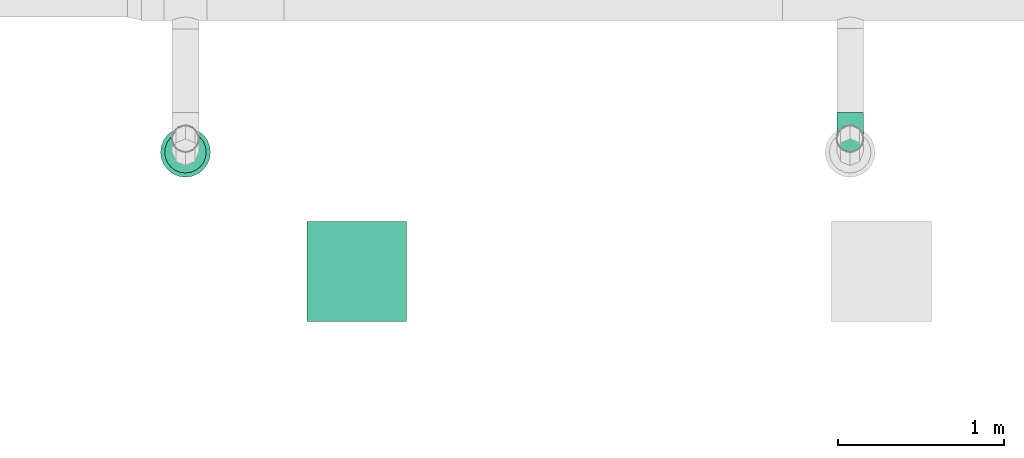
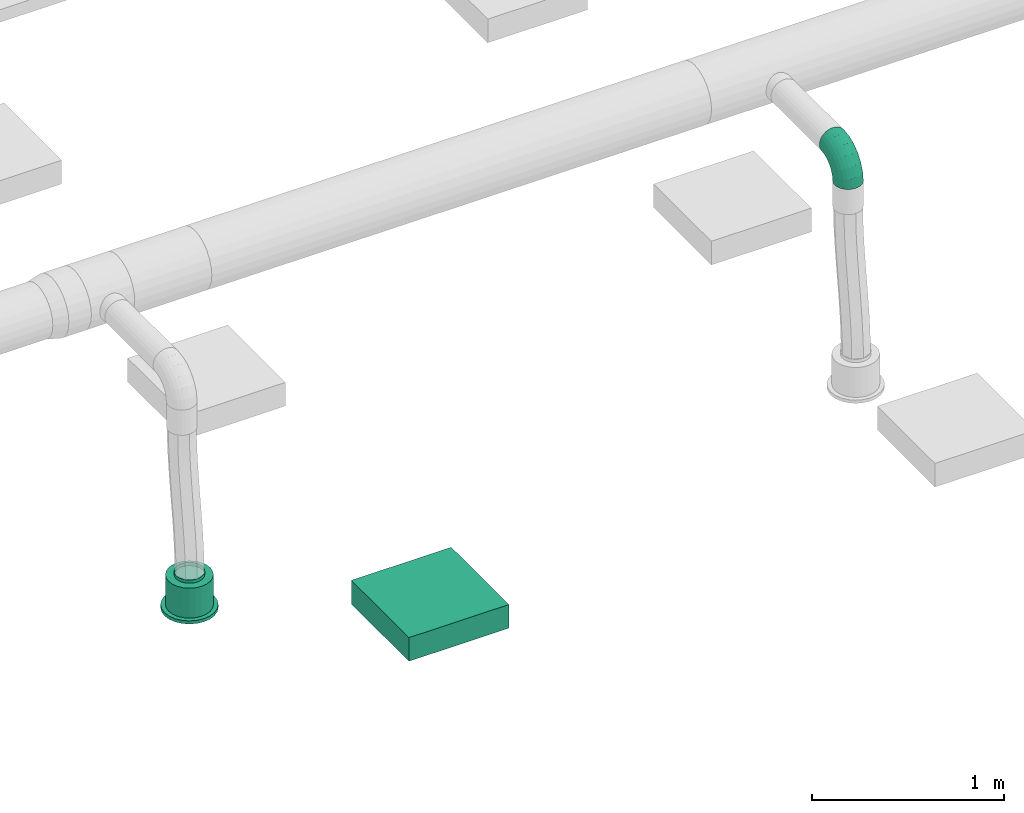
# One storey, part 25 of 374: 1 distribution element, 1 flow fitting, 1 flow terminal.
"""IFC2X3 building model written with IfcOpenShell, lengths in metres."""

import ifcopenshell
import ifcopenshell.guid

model = None  # the IFC model being written
_history = None  # IfcOwnerHistory: only IFC2X3 demands one
_inside = {}  # id of a spatial element -> (the spatial element, [elements in it])
_under = {}  # id of a project, library or spatial element -> (it, [spatial elements below it])
_declared = {}  # id of a project -> (the project, [libraries it declares])
_typed = {}  # id of a type object -> (the type object, [elements of that type])
_made_of = {}  # id of a material, layer set ... -> (it, [elements and type objects made of it])


def new_model(schema):
    """Start an empty IFC model of exactly this schema.

    Asked for "IFC4X3", IfcOpenShell would pick the latest addendum, in which some entities
    have other attributes; the version numbers below select the first issue.
    IFC2X3 requires an IfcOwnerHistory on every rooted entity: one is made here for all.
    """
    global model, _history
    if schema == "IFC4X3":
        model = ifcopenshell.file(schema_version=(4, 3, 0, 0))
    else:
        model = ifcopenshell.file(schema=schema)
    _inside.clear()
    _under.clear()
    _declared.clear()
    _typed.clear()
    _made_of.clear()
    _history = None
    if model.schema == "IFC2X3":
        org = make("IfcOrganization", Name="unknown")
        user = make(
            "IfcPersonAndOrganization",
            ThePerson=make("IfcPerson", FamilyName="unknown"),
            TheOrganization=org,
        )
        app = make(
            "IfcApplication",
            ApplicationDeveloper=org,
            Version="unknown",
            ApplicationFullName="unknown",
            ApplicationIdentifier="unknown",
        )
        _history = make(
            "IfcOwnerHistory",
            OwningUser=user,
            OwningApplication=app,
            ChangeAction="ADDED",
            CreationDate=0,
        )
    return model


def make(cls, **values):
    """One entity of the class cls with the attributes given. An attribute that is None is left unset."""
    return model.create_entity(
        cls, **{name: value for name, value in values.items() if value is not None}
    )


def rooted(cls, **values):
    """An entity with a GlobalId (a new one), such as an element, a storey or a relation."""
    return make(cls, GlobalId=ifcopenshell.guid.new(), OwnerHistory=_history, **values)


def si_unit(unit_type, name, prefix=None):
    """IfcSIUnit, for example si_unit("LENGTHUNIT", "METRE", prefix="MILLI")."""
    return make("IfcSIUnit", UnitType=unit_type, Prefix=prefix, Name=name)


def assignment(units):
    """IfcUnitAssignment: the units of a project."""
    return None if units is None else make("IfcUnitAssignment", Units=units)


def point(xyz):
    """IfcCartesianPoint."""
    return None if xyz is None else make("IfcCartesianPoint", Coordinates=xyz)


def direction(xyz):
    """IfcDirection."""
    return None if xyz is None else make("IfcDirection", DirectionRatios=xyz)


def frame(location, z_axis=None, x_axis=None):
    """IfcAxis2Placement3D, a coordinate frame: its origin and axes. An axis left out is left unset."""
    return make(
        "IfcAxis2Placement3D",
        Location=point(location),
        Axis=direction(z_axis),
        RefDirection=direction(x_axis),
    )


def frame_2d(location, x_axis=None):
    """IfcAxis2Placement2D, a coordinate frame in the plane: its origin and x axis."""
    return make(
        "IfcAxis2Placement2D", Location=point(location), RefDirection=direction(x_axis)
    )


def origin():
    """The frame at (0, 0, 0) with its axes left unset."""
    return frame((0.0, 0.0, 0.0))


def place(relative_to, where):
    """IfcLocalPlacement: puts the frame where relative to a parent placement (None: the world)."""
    return make(
        "IfcLocalPlacement", PlacementRelTo=relative_to, RelativePlacement=where
    )


def context(
    kind, dimensions, precision=None, world=None, true_north=None, identifier=None
):
    """IfcGeometricRepresentationContext, for example the 3D "Model" context."""
    return make(
        "IfcGeometricRepresentationContext",
        ContextIdentifier=identifier,
        ContextType=kind,
        CoordinateSpaceDimension=dimensions,
        Precision=precision,
        WorldCoordinateSystem=world,
        TrueNorth=true_north,
    )


def subcontext(parent, identifier, kind, view, scale=None):
    """IfcGeometricRepresentationSubContext, for example "Body" below "Model"."""
    return make(
        "IfcGeometricRepresentationSubContext",
        ContextIdentifier=identifier,
        ContextType=kind,
        ParentContext=parent,
        TargetScale=scale,
        TargetView=view,
    )


def project(units=None, contexts=None):
    """IfcProject with its units and contexts."""
    return rooted(
        "IfcProject",
        Name="project",
        RepresentationContexts=contexts,
        UnitsInContext=assignment(units),
    )


def spatial(cls, under=None, at=None, **own):
    """A site, building, storey or space (cls), placed at a placement, below another one or the project."""
    s = rooted(cls, ObjectPlacement=at, **own)
    if under is not None:
        _under.setdefault(under.id(), (under, []))[1].append(s)
    return s


def profile(cls, at=None, kind="AREA", **sizes):
    """A parametric profile (cls). Its sizes go by their IFC names, for example OverallWidth=200.0."""
    return make(cls, ProfileType=kind, Position=at, **sizes)


def rectangle(**sizes):
    """IfcRectangleProfileDef."""
    return profile("IfcRectangleProfileDef", **sizes)


def extrude(swept, where, along, depth):
    """IfcExtrudedAreaSolid: the profile swept, set in the frame where, extruded along a direction by depth."""
    return make(
        "IfcExtrudedAreaSolid",
        SweptArea=swept,
        Position=where,
        ExtrudedDirection=direction(along),
        Depth=depth,
    )


def faces_of(points, faces, orient=None, outer=None):
    """IfcFace entities. A face is a list of loops; a loop is a list of indices into points, from 0.

    orient and outer hold one flag for each loop. By default every Orientation is true, the
    first loop of a face is its IfcFaceOuterBound and the others are IfcFaceBound.
    """
    made = []
    for i, loops in enumerate(faces):
        bounds = []
        for j, loop in enumerate(loops):
            is_outer = j == 0 if outer is None else outer[i][j]
            bounds.append(
                make(
                    "IfcFaceOuterBound" if is_outer else "IfcFaceBound",
                    Bound=make("IfcPolyLoop", Polygon=[points[k] for k in loop]),
                    Orientation=True if orient is None else orient[i][j],
                )
            )
        made.append(make("IfcFace", Bounds=bounds))
    return made


def open_shell(faces, orient=None, outer=None):
    """The faces of one IfcOpenShell. surface_model builds it on its shared points."""
    return ("IfcOpenShell", faces, orient, outer)


def surface_model(cls, points, shells):
    """IfcFaceBasedSurfaceModel or IfcShellBasedSurfaceModel (cls): surfaces that need not close."""
    shared = [point(p) for p in points]
    made = [make(c, CfsFaces=faces_of(shared, fs, o, b)) for c, fs, o, b in shells]
    if cls == "IfcFaceBasedSurfaceModel":
        return make(cls, FbsmFaces=made)
    return make(cls, SbsmBoundary=made)


def shape(context_of_items, identifier, shape_type, items):
    """IfcShapeRepresentation: the items that make up one representation, for example the "Body"."""
    return make(
        "IfcShapeRepresentation",
        ContextOfItems=context_of_items,
        RepresentationIdentifier=identifier,
        RepresentationType=shape_type,
        Items=items,
    )


def source(mapping_origin, context_of_items, identifier, shape_type, items):
    """IfcRepresentationMap: a shape defined once, which mapped items show again and again."""
    return make(
        "IfcRepresentationMap",
        MappingOrigin=mapping_origin,
        MappedRepresentation=shape(context_of_items, identifier, shape_type, items),
    )


def transform(
    local_origin,
    x_axis=None,
    y_axis=None,
    z_axis=None,
    scale=None,
    scale2=None,
    scale3=None,
    uniform=True,
):
    """IfcCartesianTransformationOperator3D, or its non-uniform kind. x_axis, y_axis, z_axis: its Axis1, 2, 3."""
    if uniform:
        return make(
            "IfcCartesianTransformationOperator3D",
            Axis1=direction(x_axis),
            Axis2=direction(y_axis),
            LocalOrigin=point(local_origin),
            Scale=scale,
            Axis3=direction(z_axis),
        )
    return make(
        "IfcCartesianTransformationOperator3DnonUniform",
        Axis1=direction(x_axis),
        Axis2=direction(y_axis),
        LocalOrigin=point(local_origin),
        Scale=scale,
        Axis3=direction(z_axis),
        Scale2=scale2,
        Scale3=scale3,
    )


def mapped(mapping_source, mapping_target):
    """IfcMappedItem: shows the shape of a source again, moved by a transform."""
    return make(
        "IfcMappedItem", MappingSource=mapping_source, MappingTarget=mapping_target
    )


def made_of(thing, what):
    """Note that an element or type object is made of a material, layer set ...; save() writes the relation."""
    if what is not None:
        _made_of.setdefault(what.id(), (what, []))[1].append(thing)
    return thing


def element(
    cls,
    number,
    at=None,
    inside=None,
    cuts=None,
    type_object=None,
    material=None,
    context=None,
    identifier="Body",
    shape_type=None,
    held_by="IfcProductDefinitionShape",
    body=None,
    shapes=None,
    **own,
):
    """One element of the class cls, such as IfcWall. Its Tag is "e" and its number.

    at: its placement. inside: the storey or other place that contains it. cuts: it is an
    opening in that element (IfcRelVoidsElement). A single representation is given by context,
    identifier, shape_type and body (its items); several are given by shapes. held_by: the class
    of the entity that holds the representations. save() writes the other relations.
    """
    e = rooted(cls, Tag="e%d" % number, ObjectPlacement=at, **own)
    if body is not None:
        shapes = [shape(context, identifier, shape_type, body)]
    if shapes is not None:
        e.Representation = make(held_by, Representations=shapes)
    if inside is not None:
        _inside.setdefault(inside.id(), (inside, []))[1].append(e)
    if cuts is not None:
        rooted(
            "IfcRelVoidsElement", RelatingBuildingElement=cuts, RelatedOpeningElement=e
        )
    if type_object is not None:
        _typed.setdefault(type_object.id(), (type_object, []))[1].append(e)
    return made_of(e, material)


def aggregate(whole, parts):
    """IfcRelAggregates: a whole, such as a stair, and the parts it consists of."""
    return rooted("IfcRelAggregates", RelatingObject=whole, RelatedObjects=parts)


def save(model, path):
    """Write the relations noted so far, then the file.

    IfcRelAggregates (storeys below a building ...), IfcRelContainedInSpatialStructure (elements
    in a storey), IfcRelDefinesByType, IfcRelAssociatesMaterial and IfcRelDeclares: one each for
    every whole, place, type object, material and project.
    """
    for whole, parts in _under.values():
        aggregate(whole, parts)
    for where, things in _inside.values():
        rooted(
            "IfcRelContainedInSpatialStructure",
            RelatedElements=things,
            RelatingStructure=where,
        )
    for kind, things in _typed.values():
        rooted("IfcRelDefinesByType", RelatedObjects=things, RelatingType=kind)
    for what, things in _made_of.values():
        rooted("IfcRelAssociatesMaterial", RelatedObjects=things, RelatingMaterial=what)
    for by, libraries in _declared.values():
        rooted("IfcRelDeclares", RelatingContext=by, RelatedDefinitions=libraries)
    model.write(path)


model = new_model("IFC2X3")

# Units and contexts
model_context = context("Model", 3, precision=1e-05, world=origin(), true_north=direction((-0.4480736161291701, 0.8939966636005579)))
body_context = subcontext(model_context, "Body", "Model", "MODEL_VIEW")
ifc_project = project(units=[si_unit("LENGTHUNIT", "METRE"), si_unit("AREAUNIT", "SQUARE_METRE"), si_unit("VOLUMEUNIT", "CUBIC_METRE"), si_unit("PLANEANGLEUNIT", "RADIAN"), si_unit("THERMODYNAMICTEMPERATUREUNIT", "KELVIN"), si_unit("MASSUNIT", "GRAM", prefix="KILO"), si_unit("TIMEUNIT", "SECOND")], contexts=[model_context])

# Site, building, storey
site_placement = place(None, origin())
site = spatial("IfcSite", under=ifc_project, at=site_placement, Name="Site 1", CompositionType="ELEMENT")
building_placement = place(site_placement, origin())
building = spatial("IfcBuilding", under=site, at=building_placement, Name="Undefined", CompositionType="ELEMENT")
storey_placement = place(building_placement, origin())
storey = spatial("IfcBuildingStorey", under=building, at=storey_placement, Name="Rez de chauss\x8ee", CompositionType="ELEMENT", Elevation=0.0)

# Flow terminal
shared_shape_1 = source(origin(), body_context, "Body", "SurfaceModel", [
    surface_model("IfcFaceBasedSurfaceModel", [(0.0, 0.0, 0.0), (0.03915785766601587, 0.0, 0.0), (0.03915785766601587, 0.020000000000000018, 0.0), (3.552713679e-15, 0.020000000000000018, 0.0), (0.07698144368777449, 0.0, -0.010134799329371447), (0.07698144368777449, 0.020000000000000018, -0.010134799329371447), (0.11089314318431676, 0.0, -0.02971372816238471), (0.11089314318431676, 0.020000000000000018, -0.02971372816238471), (0.13858192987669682, 0.0, -0.05740251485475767), (0.13858192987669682, 0.020000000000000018, -0.05740251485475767), (0.15816085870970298, 0.0, -0.09131421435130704), (0.15816085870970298, 0.020000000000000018, -0.09131421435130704), (0.16829565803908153, 0.0, -0.12913780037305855), (0.16829565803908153, 0.020000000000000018, -0.12913780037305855), (0.16829565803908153, 0.0, -0.16829565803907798), (0.16829565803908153, 0.020000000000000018, -0.16829565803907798), (0.15816085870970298, 0.0, -0.20611924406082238), (0.15816085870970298, 0.020000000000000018, -0.20611924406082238), (0.13858192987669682, 0.0, -0.24003094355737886), (0.13858192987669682, 0.020000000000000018, -0.24003094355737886), (0.11089314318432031, 0.0, -0.2677197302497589), (0.11089314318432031, 0.020000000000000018, -0.2677197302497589), (0.07698144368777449, 0.0, -0.2872986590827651), (0.07698144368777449, 0.020000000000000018, -0.2872986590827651), (0.039157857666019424, 0.0, -0.29743345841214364), (0.039157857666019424, 0.020000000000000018, -0.29743345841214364), (3.552713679e-15, 0.0, -0.29743345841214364), (3.552713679e-15, 0.020000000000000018, -0.29743345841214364), (-0.03782358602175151, 0.0, -0.2872986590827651), (-0.03782358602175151, 0.020000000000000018, -0.2872986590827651), (-0.07173528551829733, 0.0, -0.2677197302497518), (-0.07173528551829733, 0.020000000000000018, -0.2677197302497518), (-0.0994240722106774, 0.0, -0.24003094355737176), (-0.0994240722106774, 0.020000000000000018, -0.24003094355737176), (-0.11900300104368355, 0.0, -0.2061192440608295), (-0.11900300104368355, 0.020000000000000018, -0.2061192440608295), (-0.1291378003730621, 0.0, -0.16829565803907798), (-0.1291378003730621, 0.020000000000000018, -0.16829565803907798), (-0.1291378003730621, 0.0, -0.12913780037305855), (-0.1291378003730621, 0.020000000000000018, -0.12913780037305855), (-0.11900300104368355, 0.0, -0.09131421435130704), (-0.11900300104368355, 0.020000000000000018, -0.09131421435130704), (-0.0994240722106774, 0.0, -0.05740251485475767), (-0.0994240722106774, 0.020000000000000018, -0.05740251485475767), (-0.07173528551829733, 0.0, -0.029713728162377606), (-0.07173528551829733, 0.020000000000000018, -0.029713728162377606), (-0.03782358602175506, 0.0, -0.010134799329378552), (-0.03782358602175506, 0.020000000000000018, -0.010134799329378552), (0.019578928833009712, 0.0, -0.14871672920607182), (0.019578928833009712, 0.020000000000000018, -0.14871672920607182), (0.003263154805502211, 0.020000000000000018, -0.02478612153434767), (0.035894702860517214, 0.020000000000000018, -0.02478612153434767), (0.035894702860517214, 0.20999999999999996, -0.02478612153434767), (0.003263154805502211, 0.20999999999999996, -0.02478612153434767), (0.06741435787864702, 0.020000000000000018, -0.033231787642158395), (0.06741435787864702, 0.20999999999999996, -0.033231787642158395), (0.0956741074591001, 0.020000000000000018, -0.04954756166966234), (0.0956741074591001, 0.20999999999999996, -0.04954756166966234), (0.11874809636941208, 0.020000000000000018, -0.07262155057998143), (0.11874809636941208, 0.20999999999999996, -0.07262155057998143), (0.13506387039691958, 0.020000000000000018, -0.10088130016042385), (0.13506387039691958, 0.20999999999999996, -0.10088130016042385), (0.1435095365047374, 0.020000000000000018, -0.13240095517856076), (0.1435095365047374, 0.20999999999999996, -0.13240095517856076), (0.1435095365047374, 0.020000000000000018, -0.16503250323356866), (0.1435095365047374, 0.20999999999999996, -0.16503250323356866), (0.13506387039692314, 0.020000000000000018, -0.19655215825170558), (0.13506387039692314, 0.20999999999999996, -0.19655215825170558), (0.11874809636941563, 0.020000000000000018, -0.2248119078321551), (0.11874809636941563, 0.20999999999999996, -0.2248119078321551), (0.09567410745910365, 0.020000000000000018, -0.24788589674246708), (0.09567410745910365, 0.20999999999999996, -0.24788589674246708), (0.06741435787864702, 0.020000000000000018, -0.26420167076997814), (0.06741435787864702, 0.20999999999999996, -0.26420167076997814), (0.035894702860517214, 0.020000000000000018, -0.27264733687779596), (0.035894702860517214, 0.20999999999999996, -0.27264733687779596), (0.0032631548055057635, 0.020000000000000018, -0.27264733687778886), (0.0032631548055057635, 0.20999999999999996, -0.27264733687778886), (-0.028256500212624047, 0.020000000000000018, -0.26420167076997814), (-0.028256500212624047, 0.20999999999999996, -0.26420167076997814), (-0.05651624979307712, 0.020000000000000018, -0.2478858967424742), (-0.05651624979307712, 0.20999999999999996, -0.2478858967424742), (-0.07959023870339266, 0.020000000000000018, -0.2248119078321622), (-0.07959023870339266, 0.20999999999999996, -0.2248119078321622), (-0.09590601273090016, 0.020000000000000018, -0.19655215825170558), (-0.09590601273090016, 0.20999999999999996, -0.19655215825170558), (-0.10435167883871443, 0.020000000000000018, -0.16503250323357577), (-0.10435167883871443, 0.20999999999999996, -0.16503250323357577), (-0.10435167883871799, 0.020000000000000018, -0.13240095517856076), (-0.10435167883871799, 0.20999999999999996, -0.13240095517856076), (-0.09590601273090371, 0.020000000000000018, -0.10088130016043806), (-0.09590601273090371, 0.20999999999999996, -0.10088130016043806), (-0.07959023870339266, 0.020000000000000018, -0.07262155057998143), (-0.07959023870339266, 0.20999999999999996, -0.07262155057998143), (-0.056516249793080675, 0.020000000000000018, -0.04954756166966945), (-0.056516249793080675, 0.20999999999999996, -0.04954756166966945), (-0.028256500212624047, 0.020000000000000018, -0.033231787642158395), (-0.028256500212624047, 0.20999999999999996, -0.033231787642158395), (0.019578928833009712, 0.20999999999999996, -0.14871672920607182), (0.009136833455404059, 0.20999999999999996, -0.06940114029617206), (0.030021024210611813, 0.20999999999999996, -0.06940114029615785), (0.030021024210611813, 0.22999999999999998, -0.06940114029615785), (0.009136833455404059, 0.22999999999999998, -0.06940114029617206), (0.05019360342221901, 0.20999999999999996, -0.07480636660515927), (0.05019360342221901, 0.22999999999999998, -0.07480636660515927), (0.06827984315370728, 0.20999999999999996, -0.08524846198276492), (0.06827984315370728, 0.22999999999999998, -0.08524846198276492), (0.0830471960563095, 0.20999999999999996, -0.10001581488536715), (0.0830471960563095, 0.22999999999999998, -0.10001581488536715), (0.0934892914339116, 0.20999999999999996, -0.11810205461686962), (0.0934892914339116, 0.22999999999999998, -0.11810205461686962), (0.09889451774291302, 0.20999999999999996, -0.13827463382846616), (0.09889451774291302, 0.22999999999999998, -0.13827463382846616), (0.09889451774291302, 0.20999999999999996, -0.15915882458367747), (0.09889451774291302, 0.22999999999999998, -0.15915882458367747), (0.09348929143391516, 0.20999999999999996, -0.179331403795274), (0.09348929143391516, 0.22999999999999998, -0.179331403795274), (0.0830471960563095, 0.20999999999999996, -0.19741764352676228), (0.0830471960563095, 0.22999999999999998, -0.19741764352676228), (0.06827984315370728, 0.20999999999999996, -0.2121849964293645), (0.06827984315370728, 0.22999999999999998, -0.2121849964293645), (0.05019360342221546, 0.20999999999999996, -0.22262709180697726), (0.05019360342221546, 0.22999999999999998, -0.22262709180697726), (0.030021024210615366, 0.20999999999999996, -0.22803231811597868), (0.030021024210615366, 0.22999999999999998, -0.22803231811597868), (0.009136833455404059, 0.20999999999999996, -0.22803231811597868), (0.009136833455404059, 0.22999999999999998, -0.22803231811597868), (-0.011035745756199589, 0.20999999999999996, -0.22262709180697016), (-0.011035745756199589, 0.22999999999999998, -0.22262709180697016), (-0.0291219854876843, 0.20999999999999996, -0.2121849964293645), (-0.0291219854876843, 0.22999999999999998, -0.2121849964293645), (-0.043889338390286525, 0.20999999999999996, -0.19741764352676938), (-0.043889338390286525, 0.22999999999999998, -0.19741764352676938), (-0.05433143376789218, 0.20999999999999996, -0.17933140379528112), (-0.05433143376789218, 0.22999999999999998, -0.17933140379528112), (-0.05973666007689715, 0.20999999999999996, -0.15915882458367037), (-0.05973666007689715, 0.22999999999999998, -0.15915882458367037), (-0.0597366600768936, 0.20999999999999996, -0.13827463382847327), (-0.0597366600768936, 0.22999999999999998, -0.13827463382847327), (-0.05433143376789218, 0.20999999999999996, -0.11810205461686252), (-0.05433143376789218, 0.22999999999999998, -0.11810205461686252), (-0.043889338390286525, 0.20999999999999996, -0.10001581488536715), (-0.043889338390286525, 0.22999999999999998, -0.10001581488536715), (-0.02912198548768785, 0.20999999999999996, -0.08524846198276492), (-0.02912198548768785, 0.22999999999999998, -0.08524846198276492), (-0.011035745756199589, 0.20999999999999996, -0.07480636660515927), (-0.011035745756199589, 0.22999999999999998, -0.07480636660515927)], [open_shell([[[0, 1, 2, 3]], [[1, 4, 5, 2]], [[4, 6, 7, 5]], [[6, 8, 9, 7]], [[8, 10, 11, 9]], [[10, 12, 13, 11]], [[12, 14, 15, 13]], [[14, 16, 17, 15]], [[16, 18, 19, 17]], [[18, 20, 21, 19]], [[20, 22, 23, 21]], [[22, 24, 25, 23]], [[24, 26, 27, 25]], [[26, 28, 29, 27]], [[28, 30, 31, 29]], [[30, 32, 33, 31]], [[32, 34, 35, 33]], [[34, 36, 37, 35]], [[36, 38, 39, 37]], [[38, 40, 41, 39]], [[40, 42, 43, 41]], [[42, 44, 45, 43]], [[44, 46, 47, 45]], [[46, 0, 3, 47]], [[48, 1, 0]], [[48, 4, 1]], [[48, 6, 4]], [[48, 8, 6]], [[48, 10, 8]], [[48, 12, 10]], [[48, 14, 12]], [[48, 16, 14]], [[48, 18, 16]], [[48, 20, 18]], [[48, 22, 20]], [[48, 24, 22]], [[48, 26, 24]], [[48, 28, 26]], [[48, 30, 28]], [[48, 32, 30]], [[48, 34, 32]], [[48, 36, 34]], [[48, 38, 36]], [[48, 40, 38]], [[48, 42, 40]], [[48, 44, 42]], [[48, 46, 44]], [[48, 0, 46]], [[49, 47, 3]], [[49, 45, 47]], [[49, 43, 45]], [[49, 41, 43]], [[49, 39, 41]], [[49, 37, 39]], [[49, 35, 37]], [[49, 33, 35]], [[49, 31, 33]], [[49, 29, 31]], [[49, 27, 29]], [[49, 25, 27]], [[49, 23, 25]], [[49, 21, 23]], [[49, 19, 21]], [[49, 17, 19]], [[49, 15, 17]], [[49, 13, 15]], [[49, 11, 13]], [[49, 9, 11]], [[49, 7, 9]], [[49, 5, 7]], [[49, 2, 5]], [[49, 3, 2]], [[50, 51, 52, 53]], [[51, 54, 55, 52]], [[54, 56, 57, 55]], [[56, 58, 59, 57]], [[58, 60, 61, 59]], [[60, 62, 63, 61]], [[62, 64, 65, 63]], [[64, 66, 67, 65]], [[66, 68, 69, 67]], [[68, 70, 71, 69]], [[70, 72, 73, 71]], [[72, 74, 75, 73]], [[74, 76, 77, 75]], [[76, 78, 79, 77]], [[78, 80, 81, 79]], [[80, 82, 83, 81]], [[82, 84, 85, 83]], [[84, 86, 87, 85]], [[86, 88, 89, 87]], [[88, 90, 91, 89]], [[90, 92, 93, 91]], [[92, 94, 95, 93]], [[94, 96, 97, 95]], [[96, 50, 53, 97]], [[49, 51, 50]], [[49, 54, 51]], [[49, 56, 54]], [[49, 58, 56]], [[49, 60, 58]], [[49, 62, 60]], [[49, 64, 62]], [[49, 66, 64]], [[49, 68, 66]], [[49, 70, 68]], [[49, 72, 70]], [[49, 74, 72]], [[49, 76, 74]], [[49, 78, 76]], [[49, 80, 78]], [[49, 82, 80]], [[49, 84, 82]], [[49, 86, 84]], [[49, 88, 86]], [[49, 90, 88]], [[49, 92, 90]], [[49, 94, 92]], [[49, 96, 94]], [[49, 50, 96]], [[98, 97, 53]], [[98, 95, 97]], [[98, 93, 95]], [[98, 91, 93]], [[98, 89, 91]], [[98, 87, 89]], [[98, 85, 87]], [[98, 83, 85]], [[98, 81, 83]], [[98, 79, 81]], [[98, 77, 79]], [[98, 75, 77]], [[98, 73, 75]], [[98, 71, 73]], [[98, 69, 71]], [[98, 67, 69]], [[98, 65, 67]], [[98, 63, 65]], [[98, 61, 63]], [[98, 59, 61]], [[98, 57, 59]], [[98, 55, 57]], [[98, 52, 55]], [[98, 53, 52]], [[99, 100, 101, 102]], [[100, 103, 104, 101]], [[103, 105, 106, 104]], [[105, 107, 108, 106]], [[107, 109, 110, 108]], [[109, 111, 112, 110]], [[111, 113, 114, 112]], [[113, 115, 116, 114]], [[115, 117, 118, 116]], [[117, 119, 120, 118]], [[119, 121, 122, 120]], [[121, 123, 124, 122]], [[123, 125, 126, 124]], [[125, 127, 128, 126]], [[127, 129, 130, 128]], [[129, 131, 132, 130]], [[131, 133, 134, 132]], [[133, 135, 136, 134]], [[135, 137, 138, 136]], [[137, 139, 140, 138]], [[139, 141, 142, 140]], [[141, 143, 144, 142]], [[143, 145, 146, 144]], [[145, 99, 102, 146]]])]),
])
flow_terminal_placement = place(storey_placement, origin())
element("IfcFlowTerminal", 1, at=flow_terminal_placement, inside=storey, Name="Air diffuseur - bouche", ObjectType="Air diffuseur - bouche", context=body_context, shape_type="MappedRepresentation", body=[
    mapped(shared_shape_1, transform((22.290000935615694, 2.0299997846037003, 2.38), x_axis=(-0.9914448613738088, -0.13052619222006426, 0.0), y_axis=(0.0, 0.0, 1.0), z_axis=(-0.13052619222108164, 0.9914448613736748, 0.0))),
])

# Flow fitting
shared_shape_2 = source(origin(), body_context, "Body", "SurfaceModel", [
    surface_model("IfcFaceBasedSurfaceModel", [(0.06265257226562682, -8.8817842e-16, 0.0), (0.062296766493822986, 0.02088115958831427, -7.105427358e-15), (0.0003558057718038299, 0.020881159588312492, 7.105427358e-15), (0.0, 0.0, 0.0), (-0.059474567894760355, 0.022956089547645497, -0.015896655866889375), (-0.06051773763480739, 0.002098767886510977, -0.01607928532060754), (-0.11311701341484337, 0.02696454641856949, -0.04660663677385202), (-0.11477645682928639, 0.006153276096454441, -0.04714207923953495), (-0.15691588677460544, 0.0326333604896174, -0.09003710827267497), (-0.15907851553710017, 0.01188721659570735, -0.09107150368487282), (-0.18788636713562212, 0.03957621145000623, -0.14322835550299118), (-0.1904048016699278, 0.01890983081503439, -0.14487384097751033), (-0.2039178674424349, 0.04731995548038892, -0.20255548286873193), (-0.20662048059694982, 0.026742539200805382, -0.20488255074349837), (0.061253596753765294, 0.04103889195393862, -0.0053597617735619), (0.0013989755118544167, 0.04103889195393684, -0.005359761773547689), (-0.05641614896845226, 0.04304393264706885, -0.02072097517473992), (-0.10825177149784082, 0.04691737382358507, -0.050396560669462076), (-0.15057538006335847, 0.05239524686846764, -0.09236417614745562), (-0.18050269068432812, 0.05910424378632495, -0.14376379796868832), (-0.19599420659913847, 0.06658715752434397, -0.20109262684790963), (0.05959415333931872, 0.05909948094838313, -0.01571402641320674), (0.003058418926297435, 0.05909948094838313, -0.01571402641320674), (-0.05155090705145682, 0.06099334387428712, -0.030223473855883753), (-0.10051228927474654, 0.06465200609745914, -0.058253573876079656), (-0.1404890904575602, 0.0698261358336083, -0.09789412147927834), (-0.16875695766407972, 0.0761631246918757, -0.14644367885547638), (-0.18338948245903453, 0.08323111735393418, -0.2005936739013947), (0.057431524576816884, 0.07383212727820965, -0.030357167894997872), (0.005221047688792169, 0.07383212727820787, -0.03035716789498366), (-0.0452104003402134, 0.07558110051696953, -0.04375657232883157), (-0.09042599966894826, 0.07895985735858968, -0.06964223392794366), (-0.12734438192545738, 0.08373814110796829, -0.10625008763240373), (-0.15344962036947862, 0.08959031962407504, -0.15108536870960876), (-0.16696268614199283, 0.0961175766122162, -0.20109262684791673), (0.054913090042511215, 0.0842328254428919, -0.048291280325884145), (0.007739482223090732, 0.08423282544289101, -0.04829128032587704), (-0.037826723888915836, 0.08581307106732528, -0.06039801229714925), (-0.07868026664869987, 0.08886587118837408, -0.08378642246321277), (-0.11203704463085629, 0.09318318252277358, -0.11686262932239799), (-0.13562384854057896, 0.09847078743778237, -0.1573725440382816), (-0.14783327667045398, 0.10436834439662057, -0.20255548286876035), (0.05221047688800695, 0.0895927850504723, -0.06829418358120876), (0.010442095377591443, 0.08959278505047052, -0.06829418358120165), (-0.029903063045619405, 0.09099196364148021, -0.07901370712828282), (-0.06607554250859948, 0.09369496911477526, -0.0997222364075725), (-0.0956102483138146, 0.0975175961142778, -0.12900851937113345), (-0.11649443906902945, 0.10219933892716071, -0.16487674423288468), (-0.12730489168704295, 0.1074211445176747, -0.2048825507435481), (0.04950786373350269, 0.08954673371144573, -0.08900271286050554), (0.013144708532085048, 0.08954673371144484, -0.08900271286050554), (-0.02197940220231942, 0.09076484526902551, -0.09833502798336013), (-0.05347081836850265, 0.09311805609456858, -0.11636367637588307), (-0.0791834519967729, 0.09644599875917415, -0.14186003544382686), (-0.09736502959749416, 0.10052187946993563, -0.17308657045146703), (-0.10677650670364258, 0.1050679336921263, -0.20791524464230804), (0.04698942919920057, 0.08409780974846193, -0.10900561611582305), (0.015663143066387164, 0.08409780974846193, -0.10900561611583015), (-0.014595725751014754, 0.08514719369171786, -0.11704525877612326), (-0.0417250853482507, 0.0871744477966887, -0.13257665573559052), (-0.06387611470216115, 0.09004141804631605, -0.15454136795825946), (-0.07953925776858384, 0.09355272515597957, -0.1814425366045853), (-0.08764709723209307, 0.09746907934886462, -0.21144689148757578), (0.04482680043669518, 0.0736173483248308, -0.12693972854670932), (0.017825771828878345, 0.0736173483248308, -0.12693972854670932), (-0.008255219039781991, 0.07452184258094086, -0.13386932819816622), (-0.03163879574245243, 0.0762691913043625, -0.14725628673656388), (-0.050731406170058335, 0.07874031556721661, -0.1661883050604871), (-0.06423192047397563, 0.08176681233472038, -0.18937519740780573), (-0.07122030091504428, 0.08514243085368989, -0.21523681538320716), (0.04316735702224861, 0.058819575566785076, -0.14158287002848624), (0.019485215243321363, 0.058819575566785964, -0.14158287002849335), (-0.0033899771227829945, 0.05961289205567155, -0.14766070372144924), (-0.02389931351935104, 0.06114546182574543, -0.15940217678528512), (-0.04064511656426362, 0.06331284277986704, -0.17600712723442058), (-0.052486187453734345, 0.06596733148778, -0.19634395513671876), (-0.05861557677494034, 0.06892802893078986, -0.2190267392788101), (0.04212418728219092, 0.040712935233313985, -0.15193713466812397), (0.020528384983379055, 0.040712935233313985, -0.15193713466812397), (-0.0003315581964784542, 0.041436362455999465, -0.15747952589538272), (-0.019034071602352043, 0.04283391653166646, -0.16818660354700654), (-0.03430460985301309, 0.04481035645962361, -0.1833286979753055), (-0.04510251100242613, 0.047230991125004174, -0.20187390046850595), (-0.05069191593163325, 0.04993085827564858, -0.22255838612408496), (0.04176838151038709, 0.02053136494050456, -0.15729689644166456), (0.020884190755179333, 0.02053136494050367, -0.15729689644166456), (0.0007116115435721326, 0.021230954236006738, -0.16265665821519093), (-0.017374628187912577, 0.022582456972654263, -0.17301092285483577), (-0.03214198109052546, 0.024493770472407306, -0.1876540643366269), (-0.042584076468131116, 0.026834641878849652, -0.20558817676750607), (-0.04798930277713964, 0.02944554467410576, -0.22559108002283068), (0.04212418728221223, -0.000349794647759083, -0.15729689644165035), (0.020528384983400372, -0.000349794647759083, -0.15729689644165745), (-0.0003315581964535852, 0.00037363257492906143, -0.1628392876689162), (-0.019034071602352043, 0.0017711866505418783, -0.17354636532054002), (-0.03430460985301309, 0.0037476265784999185, -0.18868845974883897), (-0.04510251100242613, 0.00616826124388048, -0.20723366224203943), (-0.05069191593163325, 0.008868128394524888, -0.22791814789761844), (0.04316735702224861, -0.020507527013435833, -0.15193713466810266), (0.019485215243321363, -0.020507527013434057, -0.15193713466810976), (-0.0033899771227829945, -0.019714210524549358, -0.15801496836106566), (-0.02389931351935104, -0.01818164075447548, -0.16975644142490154), (-0.04064511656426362, -0.01601425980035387, -0.186361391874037), (-0.052486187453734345, -0.013359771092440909, -0.20669821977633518), (-0.05861557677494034, -0.010399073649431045, -0.22938100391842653), (0.04482680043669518, -0.03856811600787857, -0.1415828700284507), (0.017825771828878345, -0.03856811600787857, -0.1415828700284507), (-0.008255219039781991, -0.03766362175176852, -0.1485124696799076), (-0.03163879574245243, -0.03591627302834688, -0.16189942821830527), (-0.050731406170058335, -0.03344514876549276, -0.1808314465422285), (-0.06423192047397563, -0.030418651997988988, -0.20401833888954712), (-0.07122030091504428, -0.027043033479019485, -0.22987995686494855), (0.04698942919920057, -0.05330076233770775, -0.12693972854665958), (0.015663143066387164, -0.05330076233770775, -0.12693972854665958), (-0.014595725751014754, -0.05225137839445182, -0.1349793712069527), (-0.0417250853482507, -0.05022412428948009, -0.15051076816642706), (-0.06387611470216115, -0.047357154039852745, -0.172475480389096), (-0.07953925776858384, -0.043845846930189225, -0.19937664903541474), (-0.08764709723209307, -0.03992949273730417, -0.2293810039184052), (0.04950786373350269, -0.06370146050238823, -0.10900561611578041), (0.013144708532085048, -0.06370146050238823, -0.10900561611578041), (-0.02197940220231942, -0.06248334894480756, -0.11833793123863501), (-0.05347081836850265, -0.06013013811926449, -0.13636657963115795), (-0.0791834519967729, -0.05680219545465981, -0.16186293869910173), (-0.09736502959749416, -0.05272631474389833, -0.1930894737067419), (-0.10677650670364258, -0.04818026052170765, -0.2279181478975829), (0.05221047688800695, -0.06906142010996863, -0.08900271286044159), (0.010442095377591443, -0.06906142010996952, -0.08900271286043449), (-0.029903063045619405, -0.06766224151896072, -0.09972223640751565), (-0.06607554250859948, -0.06495923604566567, -0.12043076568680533), (-0.0956102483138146, -0.06113660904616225, -0.14971704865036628), (-0.11649443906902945, -0.05645486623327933, -0.1855852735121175), (-0.12730489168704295, -0.05123306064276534, -0.22559108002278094), (0.054913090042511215, -0.06901536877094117, -0.06829418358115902), (0.007739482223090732, -0.06901536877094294, -0.06829418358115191), (-0.037826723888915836, -0.06743512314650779, -0.08040091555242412), (-0.07868026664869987, -0.06438232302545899, -0.10378932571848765), (-0.11203704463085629, -0.06006501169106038, -0.13686553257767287), (-0.13562384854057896, -0.0547774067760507, -0.17737544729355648), (-0.14783327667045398, -0.04887984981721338, -0.22255838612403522), (0.057431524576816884, -0.06356644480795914, -0.0482912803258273), (0.005221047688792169, -0.06356644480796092, -0.04829128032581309), (-0.0452104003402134, -0.061817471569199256, -0.0616906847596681), (-0.09042599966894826, -0.05843871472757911, -0.0875763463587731), (-0.12734438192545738, -0.05366043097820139, -0.12418420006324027), (-0.15344962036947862, -0.04780825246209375, -0.1690194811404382), (-0.16696268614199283, -0.041280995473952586, -0.21902673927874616), (0.05959415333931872, -0.05308598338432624, -0.030357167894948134), (0.003058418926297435, -0.05308598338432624, -0.030357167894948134), (-0.05155090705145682, -0.05119212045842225, -0.04486661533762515), (-0.10051228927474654, -0.04753345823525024, -0.07289671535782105), (-0.1404890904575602, -0.04235932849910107, -0.11253726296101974), (-0.16875695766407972, -0.03602233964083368, -0.16108682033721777), (-0.18338948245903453, -0.02895434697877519, -0.2152368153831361), (0.061253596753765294, -0.03828821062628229, -0.015714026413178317), (0.0013989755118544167, -0.03828821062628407, -0.015714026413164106), (-0.05641614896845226, -0.03628316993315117, -0.031075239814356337), (-0.10825177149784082, -0.03240972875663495, -0.06075082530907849), (-0.15057538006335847, -0.026931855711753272, -0.10271844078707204), (-0.18050269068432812, -0.02022285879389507, -0.15411806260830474), (-0.19599420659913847, -0.012739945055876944, -0.21144689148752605), (0.062296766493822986, -0.020181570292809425, -0.005359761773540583), (0.0003558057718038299, -0.020181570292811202, -0.0053597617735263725), (-0.059474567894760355, -0.018106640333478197, -0.021256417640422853), (-0.11311701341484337, -0.014098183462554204, -0.051966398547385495), (-0.15691588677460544, -0.00842936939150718, -0.09539687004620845), (-0.18788636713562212, -0.0014865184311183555, -0.14858811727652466), (-0.2039178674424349, 0.006257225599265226, -0.2079152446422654)], [open_shell([[[0, 1, 2, 3]], [[3, 2, 4, 5]], [[5, 4, 6, 7]], [[7, 6, 8, 9]], [[9, 8, 10, 11]], [[11, 10, 12, 13]], [[1, 14, 15, 2]], [[2, 15, 16, 4]], [[4, 16, 17, 6]], [[6, 17, 18, 8]], [[8, 18, 19, 10]], [[10, 19, 20, 12]], [[14, 21, 22, 15]], [[15, 22, 23, 16]], [[16, 23, 24, 17]], [[17, 24, 25, 18]], [[18, 25, 26, 19]], [[19, 26, 27, 20]], [[21, 28, 29, 22]], [[22, 29, 30, 23]], [[23, 30, 31, 24]], [[24, 31, 32, 25]], [[25, 32, 33, 26]], [[26, 33, 34, 27]], [[28, 35, 36, 29]], [[29, 36, 37, 30]], [[30, 37, 38, 31]], [[31, 38, 39, 32]], [[32, 39, 40, 33]], [[33, 40, 41, 34]], [[35, 42, 43, 36]], [[36, 43, 44, 37]], [[37, 44, 45, 38]], [[38, 45, 46, 39]], [[39, 46, 47, 40]], [[40, 47, 48, 41]], [[42, 49, 50, 43]], [[43, 50, 51, 44]], [[44, 51, 52, 45]], [[45, 52, 53, 46]], [[46, 53, 54, 47]], [[47, 54, 55, 48]], [[49, 56, 57, 50]], [[50, 57, 58, 51]], [[51, 58, 59, 52]], [[52, 59, 60, 53]], [[53, 60, 61, 54]], [[54, 61, 62, 55]], [[56, 63, 64, 57]], [[57, 64, 65, 58]], [[58, 65, 66, 59]], [[59, 66, 67, 60]], [[60, 67, 68, 61]], [[61, 68, 69, 62]], [[63, 70, 71, 64]], [[64, 71, 72, 65]], [[65, 72, 73, 66]], [[66, 73, 74, 67]], [[67, 74, 75, 68]], [[68, 75, 76, 69]], [[70, 77, 78, 71]], [[71, 78, 79, 72]], [[72, 79, 80, 73]], [[73, 80, 81, 74]], [[74, 81, 82, 75]], [[75, 82, 83, 76]], [[77, 84, 85, 78]], [[78, 85, 86, 79]], [[79, 86, 87, 80]], [[80, 87, 88, 81]], [[81, 88, 89, 82]], [[82, 89, 90, 83]], [[84, 91, 92, 85]], [[85, 92, 93, 86]], [[86, 93, 94, 87]], [[87, 94, 95, 88]], [[88, 95, 96, 89]], [[89, 96, 97, 90]], [[91, 98, 99, 92]], [[92, 99, 100, 93]], [[93, 100, 101, 94]], [[94, 101, 102, 95]], [[95, 102, 103, 96]], [[96, 103, 104, 97]], [[98, 105, 106, 99]], [[99, 106, 107, 100]], [[100, 107, 108, 101]], [[101, 108, 109, 102]], [[102, 109, 110, 103]], [[103, 110, 111, 104]], [[105, 112, 113, 106]], [[106, 113, 114, 107]], [[107, 114, 115, 108]], [[108, 115, 116, 109]], [[109, 116, 117, 110]], [[110, 117, 118, 111]], [[112, 119, 120, 113]], [[113, 120, 121, 114]], [[114, 121, 122, 115]], [[115, 122, 123, 116]], [[116, 123, 124, 117]], [[117, 124, 125, 118]], [[119, 126, 127, 120]], [[120, 127, 128, 121]], [[121, 128, 129, 122]], [[122, 129, 130, 123]], [[123, 130, 131, 124]], [[124, 131, 132, 125]], [[126, 133, 134, 127]], [[127, 134, 135, 128]], [[128, 135, 136, 129]], [[129, 136, 137, 130]], [[130, 137, 138, 131]], [[131, 138, 139, 132]], [[133, 140, 141, 134]], [[134, 141, 142, 135]], [[135, 142, 143, 136]], [[136, 143, 144, 137]], [[137, 144, 145, 138]], [[138, 145, 146, 139]], [[140, 147, 148, 141]], [[141, 148, 149, 142]], [[142, 149, 150, 143]], [[143, 150, 151, 144]], [[144, 151, 152, 145]], [[145, 152, 153, 146]], [[147, 154, 155, 148]], [[148, 155, 156, 149]], [[149, 156, 157, 150]], [[150, 157, 158, 151]], [[151, 158, 159, 152]], [[152, 159, 160, 153]], [[154, 161, 162, 155]], [[155, 162, 163, 156]], [[156, 163, 164, 157]], [[157, 164, 165, 158]], [[158, 165, 166, 159]], [[159, 166, 167, 160]], [[161, 0, 3, 162]], [[162, 3, 5, 163]], [[163, 5, 7, 164]], [[164, 7, 9, 165]], [[165, 9, 11, 166]], [[166, 11, 13, 167]]])]),
])
flow_fitting_placement = place(storey_placement, origin())
element("IfcFlowFitting", 2, at=flow_fitting_placement, inside=storey, Name="Coude", ObjectType="Coude", context=body_context, shape_type="MappedRepresentation", body=[
    mapped(shared_shape_2, transform((26.290000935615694, 1.8881775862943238, 3.702116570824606), x_axis=(9.56658874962e-13, -0.13052619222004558, -0.9914448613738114), y_axis=(0.9915887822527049, 0.12832103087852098, -0.01689378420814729), z_axis=(0.12942830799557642, -0.983105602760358, 0.1294283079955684))),
])

# Distribution element
distribution_element_placement = place(storey_placement, origin())
element("IfcDistributionElement", 3, at=distribution_element_placement, inside=storey, Name="Decken-Rechteckleuchte mit Rahmen AP", ObjectType="Decken-Rechteckleuchte mit Rahmen AP", context=body_context, shape_type="SweptSolid", body=[
    extrude(rectangle(XDim=0.6000000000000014, YDim=0.6000000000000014, at=frame_2d((3.552713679e-15, 0.0), x_axis=(0.0, 1.0))), frame((23.320441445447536, 1.1625, 2.5500000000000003), z_axis=(0.0, 0.0, -1.0), x_axis=(1.0, 0.0, 0.0)), (0.0, 0.0, 1.0), 0.15),
])

save(model, "model.ifc")
